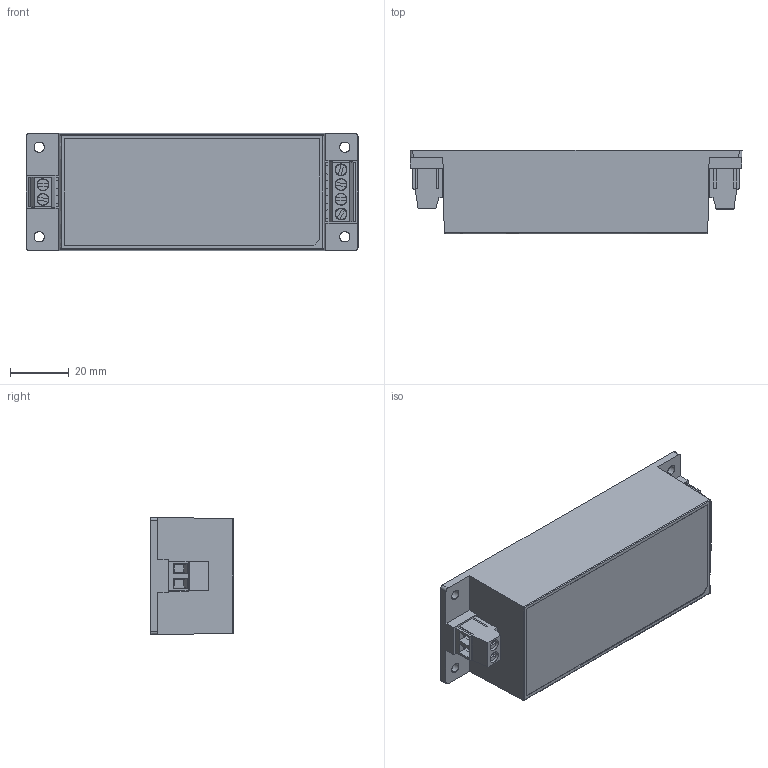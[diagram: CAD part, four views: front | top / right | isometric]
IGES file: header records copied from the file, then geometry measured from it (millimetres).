
Start section: SolidWorks IGES file using analytic representation for surfaces
Global section: file name: C:\Users\ksmith.XPNA\Desktop\ECE60\ECE60-S\ECE60-S IGES.IGS; native system: SolidWorks 2015; preprocessor: SolidWorks 2015; author: ksmith; date: 141210.145305; units: inch
Bounding box: 113 x 28.45 x 40 mm (x, y, z)
Surface area: 42944.5 mm2 (no closed solid volume)
Topology: 0 solids, 0 shells, 554 faces, 4241 edges, 4241 vertices
Faces by surface type: bspline 504, revolution 50
